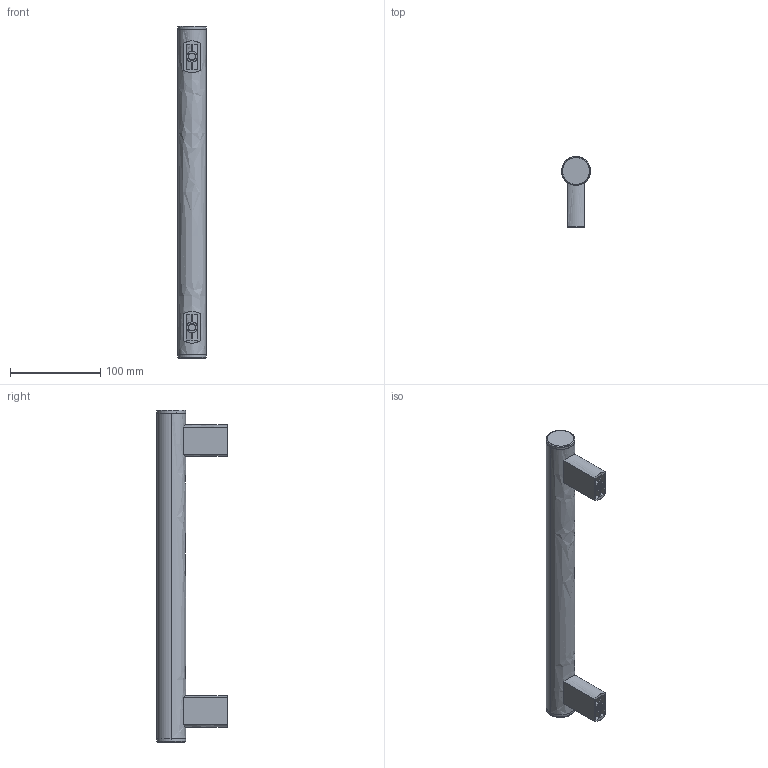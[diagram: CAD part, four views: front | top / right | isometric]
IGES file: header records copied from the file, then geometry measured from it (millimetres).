
Start section: SolidWorks IGES file using analytic representation for surfaces
Global section: file name: C:\Documents and Settings\Deathkiller\桌面\3D IGES\U型把手\MS-737-2 sus\p=300.IGS; native system: SolidWorks 2006 by SolidWorks Corporation; preprocessor: SolidWorks 2006 by SolidWorks Corporation; author: Deathkiller; date: 080624.122305; units: millimetre
Bounding box: 31.8 x 77.9 x 368 mm (x, y, z)
Surface area: 99113.2 mm2 (no closed solid volume)
Topology: 0 solids, 0 shells, 190 faces, 5022 edges, 5022 vertices
Faces by surface type: revolution 142, bspline 48
